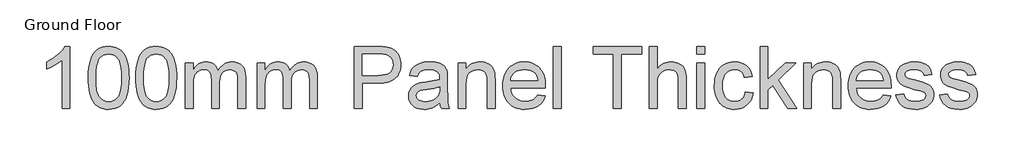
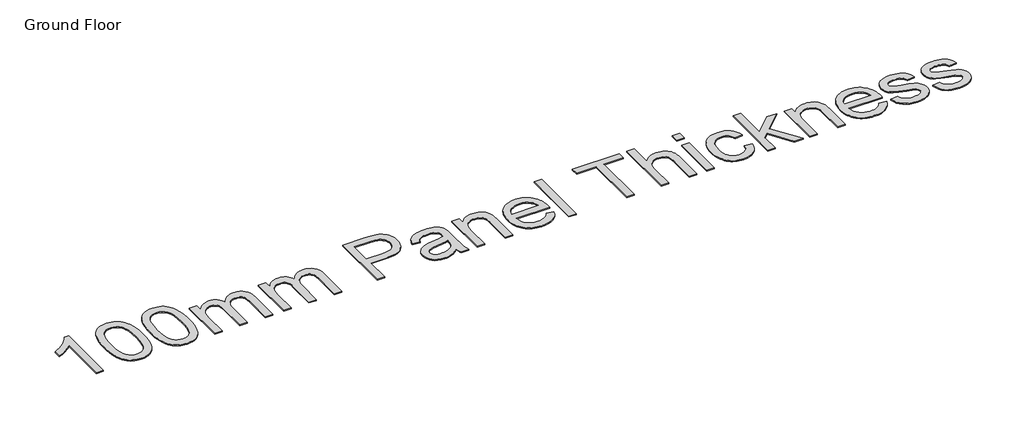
# One storey, part 8 of 12: 1 proxy.
"""IFC4 building model written with IfcOpenShell, lengths in millimetres."""

import ifcopenshell
import ifcopenshell.guid

model = None  # the IFC model being written
_history = None  # IfcOwnerHistory: only IFC2X3 demands one
_inside = {}  # id of a spatial element -> (the spatial element, [elements in it])
_under = {}  # id of a project, library or spatial element -> (it, [spatial elements below it])
_declared = {}  # id of a project -> (the project, [libraries it declares])
_typed = {}  # id of a type object -> (the type object, [elements of that type])
_made_of = {}  # id of a material, layer set ... -> (it, [elements and type objects made of it])


def new_model(schema):
    """Start an empty IFC model of exactly this schema.

    Asked for "IFC4X3", IfcOpenShell would pick the latest addendum, in which some entities
    have other attributes; the version numbers below select the first issue.
    IFC2X3 requires an IfcOwnerHistory on every rooted entity: one is made here for all.
    """
    global model, _history
    if schema == "IFC4X3":
        model = ifcopenshell.file(schema_version=(4, 3, 0, 0))
    else:
        model = ifcopenshell.file(schema=schema)
    _inside.clear()
    _under.clear()
    _declared.clear()
    _typed.clear()
    _made_of.clear()
    _history = None
    if model.schema == "IFC2X3":
        org = make("IfcOrganization", Name="unknown")
        user = make(
            "IfcPersonAndOrganization",
            ThePerson=make("IfcPerson", FamilyName="unknown"),
            TheOrganization=org,
        )
        app = make(
            "IfcApplication",
            ApplicationDeveloper=org,
            Version="unknown",
            ApplicationFullName="unknown",
            ApplicationIdentifier="unknown",
        )
        _history = make(
            "IfcOwnerHistory",
            OwningUser=user,
            OwningApplication=app,
            ChangeAction="ADDED",
            CreationDate=0,
        )
    return model


def make(cls, **values):
    """One entity of the class cls with the attributes given. An attribute that is None is left unset."""
    return model.create_entity(
        cls, **{name: value for name, value in values.items() if value is not None}
    )


def rooted(cls, **values):
    """An entity with a GlobalId (a new one), such as an element, a storey or a relation."""
    return make(cls, GlobalId=ifcopenshell.guid.new(), OwnerHistory=_history, **values)


def si_unit(unit_type, name, prefix=None):
    """IfcSIUnit, for example si_unit("LENGTHUNIT", "METRE", prefix="MILLI")."""
    return make("IfcSIUnit", UnitType=unit_type, Prefix=prefix, Name=name)


def assignment(units):
    """IfcUnitAssignment: the units of a project."""
    return None if units is None else make("IfcUnitAssignment", Units=units)


def point(xyz):
    """IfcCartesianPoint."""
    return None if xyz is None else make("IfcCartesianPoint", Coordinates=xyz)


def direction(xyz):
    """IfcDirection."""
    return None if xyz is None else make("IfcDirection", DirectionRatios=xyz)


def frame(location, z_axis=None, x_axis=None):
    """IfcAxis2Placement3D, a coordinate frame: its origin and axes. An axis left out is left unset."""
    return make(
        "IfcAxis2Placement3D",
        Location=point(location),
        Axis=direction(z_axis),
        RefDirection=direction(x_axis),
    )


def origin():
    """The frame at (0, 0, 0) with its axes left unset."""
    return frame((0.0, 0.0, 0.0))


def origin_with_axes():
    """The frame at (0, 0, 0) with the z axis (0, 0, 1) and the x axis (1, 0, 0) written out."""
    return frame((0.0, 0.0, 0.0), z_axis=(0.0, 0.0, 1.0), x_axis=(1.0, 0.0, 0.0))


def place(relative_to, where):
    """IfcLocalPlacement: puts the frame where relative to a parent placement (None: the world)."""
    return make(
        "IfcLocalPlacement", PlacementRelTo=relative_to, RelativePlacement=where
    )


def context(
    kind, dimensions, precision=None, world=None, true_north=None, identifier=None
):
    """IfcGeometricRepresentationContext, for example the 3D "Model" context."""
    return make(
        "IfcGeometricRepresentationContext",
        ContextIdentifier=identifier,
        ContextType=kind,
        CoordinateSpaceDimension=dimensions,
        Precision=precision,
        WorldCoordinateSystem=world,
        TrueNorth=true_north,
    )


def project(units=None, contexts=None):
    """IfcProject with its units and contexts."""
    return rooted(
        "IfcProject",
        Name="project",
        RepresentationContexts=contexts,
        UnitsInContext=assignment(units),
    )


def spatial(cls, under=None, at=None, **own):
    """A site, building, storey or space (cls), placed at a placement, below another one or the project."""
    s = rooted(cls, ObjectPlacement=at, **own)
    if under is not None:
        _under.setdefault(under.id(), (under, []))[1].append(s)
    return s


def polyline(points):
    """IfcPolyline through the points."""
    return make("IfcPolyline", Points=[point(p) for p in points])


def outline(outer, holes=None, kind="AREA"):
    """IfcArbitraryClosedProfileDef: a profile drawn as a closed curve; with holes, ...WithVoids."""
    if holes is None:
        return make("IfcArbitraryClosedProfileDef", ProfileType=kind, OuterCurve=outer)
    return make(
        "IfcArbitraryProfileDefWithVoids",
        ProfileType=kind,
        OuterCurve=outer,
        InnerCurves=holes,
    )


def extrude(swept, where, along, depth):
    """IfcExtrudedAreaSolid: the profile swept, set in the frame where, extruded along a direction by depth."""
    return make(
        "IfcExtrudedAreaSolid",
        SweptArea=swept,
        Position=where,
        ExtrudedDirection=direction(along),
        Depth=depth,
    )


def shape(context_of_items, identifier, shape_type, items):
    """IfcShapeRepresentation: the items that make up one representation, for example the "Body"."""
    return make(
        "IfcShapeRepresentation",
        ContextOfItems=context_of_items,
        RepresentationIdentifier=identifier,
        RepresentationType=shape_type,
        Items=items,
    )


def made_of(thing, what):
    """Note that an element or type object is made of a material, layer set ...; save() writes the relation."""
    if what is not None:
        _made_of.setdefault(what.id(), (what, []))[1].append(thing)
    return thing


def element(
    cls,
    number,
    at=None,
    inside=None,
    cuts=None,
    type_object=None,
    material=None,
    context=None,
    identifier="Body",
    shape_type=None,
    held_by="IfcProductDefinitionShape",
    body=None,
    shapes=None,
    **own,
):
    """One element of the class cls, such as IfcWall. Its Tag is "e" and its number.

    at: its placement. inside: the storey or other place that contains it. cuts: it is an
    opening in that element (IfcRelVoidsElement). A single representation is given by context,
    identifier, shape_type and body (its items); several are given by shapes. held_by: the class
    of the entity that holds the representations. save() writes the other relations.
    """
    e = rooted(cls, Tag="e%d" % number, ObjectPlacement=at, **own)
    if body is not None:
        shapes = [shape(context, identifier, shape_type, body)]
    if shapes is not None:
        e.Representation = make(held_by, Representations=shapes)
    if inside is not None:
        _inside.setdefault(inside.id(), (inside, []))[1].append(e)
    if cuts is not None:
        rooted(
            "IfcRelVoidsElement", RelatingBuildingElement=cuts, RelatedOpeningElement=e
        )
    if type_object is not None:
        _typed.setdefault(type_object.id(), (type_object, []))[1].append(e)
    return made_of(e, material)


def aggregate(whole, parts):
    """IfcRelAggregates: a whole, such as a stair, and the parts it consists of."""
    return rooted("IfcRelAggregates", RelatingObject=whole, RelatedObjects=parts)


def save(model, path):
    """Write the relations noted so far, then the file.

    IfcRelAggregates (storeys below a building ...), IfcRelContainedInSpatialStructure (elements
    in a storey), IfcRelDefinesByType, IfcRelAssociatesMaterial and IfcRelDeclares: one each for
    every whole, place, type object, material and project.
    """
    for whole, parts in _under.values():
        aggregate(whole, parts)
    for where, things in _inside.values():
        rooted(
            "IfcRelContainedInSpatialStructure",
            RelatedElements=things,
            RelatingStructure=where,
        )
    for kind, things in _typed.values():
        rooted("IfcRelDefinesByType", RelatedObjects=things, RelatingType=kind)
    for what, things in _made_of.values():
        rooted("IfcRelAssociatesMaterial", RelatedObjects=things, RelatingMaterial=what)
    for by, libraries in _declared.values():
        rooted("IfcRelDeclares", RelatingContext=by, RelatedDefinitions=libraries)
    model.write(path)


model = new_model("IFC4")

# Units and contexts
model_context = context("Model", 3, world=origin())
ifc_project = project(units=[si_unit("LENGTHUNIT", "METRE", prefix="MILLI")], contexts=[model_context])

# Site, building, storey
site = spatial("IfcSite", under=ifc_project)
building = spatial("IfcBuilding", under=site)
storey = spatial("IfcBuildingStorey", under=building, Name="Ground Floor", Elevation=0.0)

# Proxy
placement = place(None, origin())
element("IfcBuildingElementProxy", 1, Name="1200mm Arial", ObjectType="1200mm Arial", at=placement, inside=storey, context=model_context, shape_type="SweptSolid", body=[
    extrude(outline(polyline([(56694.7722355, 23010.3942503), (56547.8631446, 23010.3942503), (56547.8631446, 23926.2806139), (56486.5314685, 23876.6772758), (56408.7012128, 23827.1456707), (56326.9973776, 23783.8548327), (56254.0449628, 23752.9737957), (56254.0449628, 23891.8487957), (56313.6640146, 23921.7435045), (56369.4274202, 23954.6151309), (56421.3351794, 23990.463675), (56469.3872923, 24029.2891366), (56512.1490999, 24069.298192), (56548.1859429, 24108.6975173), (56577.4978215, 24147.4871125), (56600.0847355, 24185.6669775), (56694.7722355, 24185.6669775), (56694.7722355, 23010.3942503)])), origin_with_axes(), (0.0, 0.0, 1.0), 20.0),
    extrude(outline(polyline([(57043.6813264, 23588.5618639), (57046.3802788, 23687.3829754), (57054.4771361, 23776.6815372), (57067.9718982, 23856.4575493), (57086.8645651, 23926.7110116), (57111.0744372, 23988.0157879), (57140.5208151, 24040.9457417), (57175.2036986, 24085.5008731), (57215.1230878, 24121.6811821), (57260.413482, 24149.6749676), (57311.2093804, 24169.6705287), (57367.5107831, 24181.6678653), (57429.3176901, 24185.6669775), (57475.7647781, 24183.29979), (57519.8446787, 24176.1982275), (57561.5573918, 24164.36229), (57600.9029173, 24147.7919775), (57636.9307938, 24126.7652552), (57668.6905594, 24101.5600883), (57696.1822142, 24072.1764768), (57719.4057582, 24038.6144207), (57739.526852, 24001.0084193), (57757.711156, 23959.4929719), (57788.2693946, 23864.7337389), (57799.943933, 23809.0061998), (57808.2828889, 23744.4017077), (57813.2862625, 23670.9202623), (57814.9540537, 23588.5618639), (57812.2820011, 23490.3684157), (57804.2658435, 23401.5181849), (57790.9055807, 23322.0111714), (57772.2012128, 23251.8473753), (57748.1796396, 23190.5156991), (57718.8677611, 23137.5050457), (57684.2655771, 23092.815415), (57644.3730878, 23056.4468071), (57599.0288939, 23028.2647226), (57548.0715963, 23008.1346622), (57491.501195, 22996.056626), (57429.3176901, 22992.0306139), (57387.7125764, 22993.7791047), (57348.4029173, 22999.024577), (57311.3887128, 23007.7670308), (57276.6699628, 23020.0064662), (57244.2466673, 23035.7428831), (57214.1188264, 23054.9762815), (57186.2864401, 23077.7066615), (57160.7495082, 23103.934023), (57133.3116531, 23145.4629204), (57109.5321787, 23192.4345557), (57089.411085, 23244.8489289), (57072.9483719, 23302.70604), (57060.1440395, 23366.0058891), (57050.9980878, 23434.7484761), (57045.5105168, 23508.933801), (57043.6813264, 23588.5618639)]), holes=[polyline([(57190.5904173, 23588.8487957), (57194.8943946, 23461.1372368), (57207.8063264, 23357.7610827), (57217.4902753, 23315.1987824), (57229.3262128, 23278.7203334), (57243.3141389, 23248.3257355), (57259.4540537, 23224.0149889), (57295.8943946, 23186.7945521), (57336.351781, 23160.2085258), (57380.8262128, 23144.2569101), (57429.3176901, 23138.9397048), (57477.8091673, 23144.2748433), (57522.2835992, 23160.2802588), (57562.7409855, 23186.9559513), (57599.1813264, 23224.3019207), (57615.3212412, 23248.6709504), (57629.3091673, 23279.0969314), (57641.1451048, 23315.5798637), (57650.8290537, 23358.1197474), (57663.7409855, 23461.3703689), (57668.0449628, 23588.8487957), (57663.8844514, 23713.1799392), (57651.4029173, 23814.7358696), (57642.0417668, 23856.9731299), (57630.6003605, 23893.5165869), (57617.0786986, 23924.3662407), (57601.476781, 23949.5220912), (57565.6461702, 23988.5627517), (57524.7225196, 24016.4489378), (57478.7058293, 24033.1806494), (57427.5960992, 24038.7578866), (57379.3556872, 24033.8441792), (57335.6344514, 24019.1030571), (57296.4323918, 23994.5345202), (57261.7495082, 23960.1385684), (57245.0715963, 23932.3061821), (57230.617406, 23899.1655571), (57218.3869372, 23860.7166934), (57208.3801901, 23816.9595912), (57195.0378605, 23713.5206707), (57190.5904173, 23588.8487957)])]), origin_with_axes(), (0.0, 0.0, 1.0), 20.0),
    extrude(outline(polyline([(57943.4995082, 23588.5618639), (57946.1984607, 23687.3829754), (57954.2953179, 23776.6815372), (57967.79008, 23856.4575493), (57986.6827469, 23926.7110116), (58010.892619, 23988.0157879), (58040.3389969, 24040.9457417), (58075.0218804, 24085.5008731), (58114.9412696, 24121.6811821), (58160.2316638, 24149.6749676), (58211.0275622, 24169.6705287), (58267.3289649, 24181.6678653), (58329.1358719, 24185.6669775), (58375.58296, 24183.29979), (58419.6628605, 24176.1982275), (58461.3755736, 24164.36229), (58500.7210992, 24147.7919775), (58536.7489756, 24126.7652552), (58568.5087412, 24101.5600883), (58596.000396, 24072.1764768), (58619.2239401, 24038.6144207), (58639.3450338, 24001.0084193), (58657.5293378, 23959.4929719), (58688.0875764, 23864.7337389), (58699.7621148, 23809.0061998), (58708.1010707, 23744.4017077), (58713.1044443, 23670.9202623), (58714.7722355, 23588.5618639), (58712.100183, 23490.3684157), (58704.0840253, 23401.5181849), (58690.7237625, 23322.0111714), (58672.0193946, 23251.8473753), (58647.9978215, 23190.5156991), (58618.6859429, 23137.5050457), (58584.083759, 23092.815415), (58544.1912696, 23056.4468071), (58498.8470757, 23028.2647226), (58447.8897781, 23008.1346622), (58391.3193769, 22996.056626), (58329.1358719, 22992.0306139), (58287.5307582, 22993.7791047), (58248.2210992, 22999.024577), (58211.2068946, 23007.7670308), (58176.4881446, 23020.0064662), (58144.0648492, 23035.7428831), (58113.9370082, 23054.9762815), (58086.1046219, 23077.7066615), (58060.5676901, 23103.934023), (58033.129835, 23145.4629204), (58009.3503605, 23192.4345557), (57989.2292668, 23244.8489289), (57972.7665537, 23302.70604), (57959.9622213, 23366.0058891), (57950.8162696, 23434.7484761), (57945.3286986, 23508.933801), (57943.4995082, 23588.5618639)]), holes=[polyline([(58090.4085992, 23588.8487957), (58094.7125764, 23461.1372368), (58107.6245082, 23357.7610827), (58117.3084571, 23315.1987824), (58129.1443946, 23278.7203334), (58143.1323207, 23248.3257355), (58159.2722355, 23224.0149889), (58195.7125764, 23186.7945521), (58236.1699628, 23160.2085258), (58280.6443946, 23144.2569101), (58329.1358719, 23138.9397048), (58377.6273492, 23144.2748433), (58422.101781, 23160.2802588), (58462.5591673, 23186.9559513), (58498.9995082, 23224.3019207), (58515.139423, 23248.6709504), (58529.1273492, 23279.0969314), (58540.9632867, 23315.5798637), (58550.6472355, 23358.1197474), (58563.5591673, 23461.3703689), (58567.8631446, 23588.8487957), (58563.7026332, 23713.1799392), (58551.2210992, 23814.7358696), (58541.8599486, 23856.9731299), (58530.4185423, 23893.5165869), (58516.8968804, 23924.3662407), (58501.2949628, 23949.5220912), (58465.464352, 23988.5627517), (58424.5407014, 24016.4489378), (58378.5240111, 24033.1806494), (58327.414281, 24038.7578866), (58279.173869, 24033.8441792), (58235.4526332, 24019.1030571), (58196.2505736, 23994.5345202), (58161.5676901, 23960.1385684), (58144.8897781, 23932.3061821), (58130.4355878, 23899.1655571), (58118.205119, 23860.7166934), (58108.1983719, 23816.9595912), (58094.8560423, 23713.5206707), (58090.4085992, 23588.8487957)])]), origin_with_axes(), (0.0, 0.0, 1.0), 20.0),
    extrude(outline(polyline([(58880.0449628, 23010.3942503), (58880.0449628, 23873.4851594), (59026.9540537, 23873.4851594), (59026.9540537, 23731.4539094), (59047.4696787, 23765.8408944), (59071.1415537, 23796.6950315), (59097.9696787, 23824.0163206), (59127.9540537, 23847.8047616), (59160.6104813, 23867.0740265), (59195.4547639, 23880.8377872), (59232.4869017, 23889.0960436), (59271.7068946, 23891.8487957), (59314.5852682, 23889.0422439), (59353.4107298, 23880.6225883), (59388.1832796, 23866.5898291), (59418.9029173, 23846.9439662), (59445.479977, 23822.24093), (59467.8247923, 23793.0366508), (59485.9373634, 23759.3311288), (59499.8176901, 23721.1243639), (59525.6505203, 23761.1379026), (59553.3663406, 23795.8163028), (59582.965151, 23825.1595645), (59614.4469514, 23849.1676878), (59647.8117419, 23867.8406725), (59683.0595225, 23881.1785187), (59720.190293, 23889.1812265), (59759.2040537, 23891.8487957), (59818.0161098, 23887.4103192), (59869.6369372, 23874.0948895), (59914.0665359, 23851.9025067), (59951.304906, 23820.8331707), (59980.7423172, 23780.5282169), (60001.7690395, 23730.6289804), (60014.3850729, 23671.1354612), (60018.5904173, 23602.0476594), (60018.5904173, 23010.3942503), (59871.6813264, 23010.3942503), (59871.6813264, 23538.9226594), (59868.2740111, 23612.1978724), (59858.0520651, 23661.5860116), (59849.856575, 23679.4026842), (59838.8993662, 23695.4080997), (59825.1804386, 23709.6022581), (59808.6997923, 23721.9851594), (59790.0581908, 23732.027773), (59769.8563975, 23739.2010684), (59724.7722355, 23744.9397048), (59683.140222, 23741.2633909), (59645.1845225, 23730.2344491), (59610.9051368, 23711.8528795), (59580.3020651, 23686.1186821), (59555.1327646, 23652.2786608), (59537.1546929, 23609.5796196), (59526.3678499, 23558.0215585), (59522.7722355, 23497.6044775), (59522.7722355, 23010.3942503), (59375.8631446, 23010.3942503), (59375.8631446, 23555.277773), (59373.7380558, 23599.7880713), (59367.3627895, 23638.3445344), (59356.7373456, 23670.9471622), (59341.8617242, 23697.5959548), (59322.1441283, 23718.3088454), (59296.9927611, 23733.1037673), (59266.4076226, 23741.9807204), (59230.3887128, 23744.9397048), (59201.5341318, 23742.9670486), (59173.7914117, 23737.0490798), (59147.1605523, 23727.1857986), (59121.6415537, 23713.3772048), (59098.4000764, 23695.7667645), (59078.601781, 23674.4979434), (59062.2466673, 23649.5707417), (59049.3347355, 23620.9851594), (59039.5431872, 23587.216871), (59032.5492242, 23546.7415514), (59026.9540537, 23445.6698184), (59026.9540537, 23010.3942503), (58880.0449628, 23010.3942503)])), origin_with_axes(), (0.0, 0.0, 1.0), 20.0),
    extrude(outline(polyline([(60238.9540537, 23010.3942503), (60238.9540537, 23873.4851594), (60385.8631446, 23873.4851594), (60385.8631446, 23731.4539094), (60406.3787696, 23765.8408944), (60430.0506446, 23796.6950315), (60456.8787696, 23824.0163206), (60486.8631446, 23847.8047616), (60519.5195722, 23867.0740265), (60554.3638548, 23880.8377872), (60591.3959926, 23889.0960436), (60630.6159855, 23891.8487957), (60673.4943591, 23889.0422439), (60712.3198207, 23880.6225883), (60747.0923705, 23866.5898291), (60777.8120082, 23846.9439662), (60804.3890679, 23822.24093), (60826.7338832, 23793.0366508), (60844.8464543, 23759.3311288), (60858.726781, 23721.1243639), (60884.5596112, 23761.1379026), (60912.2754315, 23795.8163028), (60941.8742419, 23825.1595645), (60973.3560423, 23849.1676878), (61006.7208328, 23867.8406725), (61041.9686134, 23881.1785187), (61079.099384, 23889.1812265), (61118.1131446, 23891.8487957), (61176.9252007, 23887.4103192), (61228.5460281, 23874.0948895), (61272.9756269, 23851.9025067), (61310.2139969, 23820.8331707), (61339.6514081, 23780.5282169), (61360.6781304, 23730.6289804), (61373.2941638, 23671.1354612), (61377.4995082, 23602.0476594), (61377.4995082, 23010.3942503), (61230.5904173, 23010.3942503), (61230.5904173, 23538.9226594), (61227.183102, 23612.1978724), (61216.961156, 23661.5860116), (61208.7656659, 23679.4026842), (61197.8084571, 23695.4080997), (61184.0895296, 23709.6022581), (61167.6088832, 23721.9851594), (61148.9672817, 23732.027773), (61128.7654884, 23739.2010684), (61083.6813264, 23744.9397048), (61042.0493129, 23741.2633909), (61004.0936134, 23730.2344491), (60969.8142277, 23711.8528795), (60939.211156, 23686.1186821), (60914.0418555, 23652.2786608), (60896.0637838, 23609.5796196), (60885.2769408, 23558.0215585), (60881.6813264, 23497.6044775), (60881.6813264, 23010.3942503), (60734.7722355, 23010.3942503), (60734.7722355, 23555.277773), (60732.6471467, 23599.7880713), (60726.2718804, 23638.3445344), (60715.6464365, 23670.9471622), (60700.7708151, 23697.5959548), (60681.0532192, 23718.3088454), (60655.901852, 23733.1037673), (60625.3167135, 23741.9807204), (60589.2978037, 23744.9397048), (60560.4432227, 23742.9670486), (60532.7005026, 23737.0490798), (60506.0696432, 23727.1857986), (60480.5506446, 23713.3772048), (60457.3091673, 23695.7667645), (60437.5108719, 23674.4979434), (60421.1557582, 23649.5707417), (60408.2438264, 23620.9851594), (60398.4522781, 23587.216871), (60391.4583151, 23546.7415514), (60385.8631446, 23445.6698184), (60385.8631446, 23010.3942503), (60238.9540537, 23010.3942503)])), origin_with_axes(), (0.0, 0.0, 1.0), 20.0),
    extrude(outline(polyline([(62075.3176901, 23010.3942503), (62075.3176901, 24185.6669775), (62510.8801901, 24185.6669775), (62612.3105878, 24182.8693923), (62686.4824628, 24174.4766366), (62727.3612803, 24165.6624498), (62764.7789827, 24153.5664804), (62798.73557, 24138.1887282), (62829.2310423, 24119.5291934), (62856.5881979, 24097.2023113), (62881.129835, 24070.8225173), (62902.8559536, 24040.3898113), (62921.7665537, 24005.9041934), (62937.0815395, 23968.5044243), (62948.0208151, 23929.3292645), (62954.5843804, 23888.378714), (62956.7722355, 23845.652773), (62950.8632334, 23773.507354), (62943.4769807, 23739.600083), (62933.136227, 23707.1364378), (62919.8409722, 23676.1164182), (62903.5912163, 23646.5400244), (62884.3869594, 23618.4072563), (62862.2282014, 23591.7181139), (62836.2137971, 23567.3737425), (62805.4426013, 23546.2752872), (62769.9146139, 23528.4227481), (62729.629835, 23513.8161253), (62684.5882645, 23502.4554186), (62634.7899024, 23494.3406281), (62580.2347488, 23489.4717538), (62520.9228037, 23487.8487957), (62222.226781, 23487.8487957), (62222.226781, 23010.3942503), (62075.3176901, 23010.3942503)]), holes=[polyline([(62222.226781, 23634.7578866), (62529.5307582, 23634.7578866), (62600.1877185, 23638.1293355), (62659.7978037, 23648.2436821), (62708.3610139, 23665.1009264), (62745.8773492, 23688.7010684), (62773.8711347, 23718.4164449), (62793.8666957, 23753.6193923), (62805.8640324, 23794.3099108), (62809.8631446, 23840.4880003), (62807.5049237, 23874.7763525), (62800.4302611, 23906.4823184), (62788.6391567, 23935.605898), (62772.1316105, 23962.1470912), (62751.7863513, 23985.2451025), (62728.4821077, 24004.0391366), (62702.2188797, 24018.5291934), (62672.9966673, 24028.715273), (62616.3276332, 24036.2472332), (62526.0875764, 24038.7578866), (62222.226781, 24038.7578866), (62222.226781, 23634.7578866)])]), origin_with_axes(), (0.0, 0.0, 1.0), 20.0),
    extrude(outline(polyline([(63691.3176901, 23120.5760684), (63656.482374, 23087.8837744), (63621.126994, 23060.3921196), (63585.2515502, 23038.101104), (63548.8560423, 23021.0107275), (63511.5280061, 23008.3319278), (63472.854977, 22999.2756423), (63432.836955, 22993.841871), (63391.4739401, 22992.0306139), (63326.0624521, 22996.3883909), (63268.7029884, 23009.4617219), (63219.3955487, 23031.2506068), (63178.1401332, 23061.7550457), (63145.5644053, 23099.0382488), (63122.2960281, 23141.1634264), (63108.3350019, 23188.1305784), (63103.6813264, 23239.9397048), (63105.4387838, 23271.0897403), (63110.711156, 23300.8409832), (63119.4984429, 23329.1934335), (63131.8006446, 23356.1470912), (63146.9631979, 23381.1101594), (63164.3315395, 23403.4908412), (63183.9056695, 23423.2891366), (63205.6855878, 23440.5050457), (63254.2846645, 23468.480898), (63308.5506446, 23488.7095912), (63361.4178321, 23499.971665), (63435.6614401, 23510.8033412), (63585.8702469, 23534.0448184), (63643.8663406, 23547.1719491), (63690.4568946, 23561.3033412), (63691.3176901, 23594.0135684), (63688.7891034, 23629.6289804), (63681.2033435, 23659.5774889), (63668.5604102, 23683.859094), (63650.8603037, 23702.4737957), (63620.2661986, 23721.0526309), (63583.0009287, 23734.3232275), (63539.064494, 23742.2855855), (63488.4568946, 23744.9397048), (63441.4000764, 23743.1732808), (63400.9426901, 23737.8740088), (63367.0847355, 23729.0418888), (63339.8262128, 23716.6769207), (63317.4275977, 23699.8107098), (63298.1493662, 23677.4748611), (63281.9915182, 23649.6693746), (63268.9540537, 23616.3942503), (63122.0449628, 23634.7578866), (63133.2263371, 23677.0803298), (63147.5460281, 23715.0987957), (63165.0040359, 23748.8132844), (63185.6003605, 23778.2237957), (63210.2226972, 23803.9221267), (63239.7587412, 23826.5000741), (63274.2084926, 23845.957638), (63313.5719514, 23862.2948184), (63357.0510885, 23875.2246835), (63403.8478747, 23884.4603014), (63453.9623101, 23890.0016721), (63507.3943946, 23891.8487957), (63559.6249521, 23890.216871), (63606.7086702, 23885.3210969), (63648.6455487, 23877.1614733), (63685.4355878, 23865.7380003), (63717.3836524, 23851.8487069), (63744.7946077, 23836.2916224), (63767.6684536, 23819.0667467), (63786.0051901, 23800.1740798), (63800.8718449, 23779.1473575), (63813.3354457, 23755.5203156), (63831.0534855, 23700.465273), (63836.4334571, 23649.6783412), (63838.226781, 23571.9198184), (63838.226781, 23389.1442503), (63840.0918378, 23229.9329577), (63845.6870082, 23133.918398), (63856.7338832, 23070.8292645), (63874.9540537, 23010.3942503), (63728.0449628, 23010.3942503), (63714.9895651, 23034.9269207), (63704.5165537, 23061.4681139), (63691.3176901, 23120.5760684)]), holes=[polyline([(63691.3176901, 23414.3942503), (63646.9149912, 23401.6795841), (63592.6131446, 23389.9333128), (63454.3120082, 23369.3459548), (63378.095744, 23358.0838809), (63327.9185423, 23345.5306139), (63295.0289827, 23329.2472332), (63270.6756446, 23306.7948184), (63255.6117242, 23279.8949605), (63250.5904173, 23250.2692503), (63253.3252362, 23227.4402375), (63261.5296929, 23206.5838809), (63275.2037874, 23187.7001807), (63294.3475196, 23170.7891366), (63318.7815573, 23156.8550102), (63348.3265679, 23146.9020628), (63382.9825516, 23140.9302943), (63422.7495082, 23138.9397048), (63463.3503605, 23141.1365265), (63501.6557582, 23147.7269917), (63537.6657014, 23158.7111004), (63571.3801901, 23174.0888525), (63601.7949628, 23192.5869882), (63627.9057582, 23212.9322474), (63649.7125764, 23235.1246302), (63667.2154173, 23259.1641366), (63677.3835636, 23280.684023), (63684.6465253, 23306.7948184), (63689.0043023, 23337.496523), (63690.4568946, 23372.7891366), (63691.3176901, 23414.3942503)])]), origin_with_axes(), (0.0, 0.0, 1.0), 20.0),
    extrude(outline(polyline([(64040.226781, 23010.3942503), (64040.226781, 23873.4851594), (64187.1358719, 23873.4851594), (64187.1358719, 23752.9737957), (64211.3726439, 23785.5226238), (64238.173869, 23813.7316082), (64267.5395473, 23837.6007488), (64299.4696787, 23857.1300457), (64333.9642632, 23872.3194988), (64371.0233009, 23883.1691082), (64410.6467916, 23889.6788738), (64452.8347355, 23891.8487957), (64489.804107, 23890.100305), (64525.2491531, 23884.8548327), (64559.169874, 23876.1123788), (64591.5662696, 23863.8729434), (64621.2099131, 23848.7910898), (64646.8723776, 23831.5213809), (64668.5536631, 23812.063817), (64686.2537696, 23790.418398), (64712.9742952, 23740.671594), (64730.2978037, 23682.3885684), (64736.108173, 23626.6520628), (64738.0449628, 23540.3573184), (64738.0449628, 23010.3942503), (64591.1358719, 23010.3942503), (64591.1358719, 23520.559023), (64586.9036276, 23596.5242219), (64581.6133222, 23626.2754648), (64574.2068946, 23650.5391366), (64564.1194479, 23670.9740621), (64550.786085, 23689.2390656), (64534.2068058, 23705.3341473), (64514.3816105, 23719.2593071), (64491.9919621, 23730.4944811), (64467.7193236, 23738.5196054), (64441.563695, 23743.33468), (64413.5250764, 23744.9397048), (64368.9161453, 23741.3351238), (64327.4813975, 23730.5213809), (64289.2208328, 23712.4984761), (64254.1344514, 23687.2664094), (64238.4316593, 23671.2296107), (64224.8225729, 23651.9558625), (64213.307192, 23629.4451647), (64203.8855168, 23603.6975173), (64191.3232831, 23542.4913738), (64187.1358719, 23468.3374321), (64187.1358719, 23010.3942503), (64040.226781, 23010.3942503)])), origin_with_axes(), (0.0, 0.0, 1.0), 20.0),
    extrude(outline(polyline([(65544.3233719, 23267.4851594), (65688.3631446, 23249.121523), (65666.2783612, 23191.4302943), (65636.464352, 23140.5895628), (65598.9211169, 23096.5993284), (65553.648656, 23059.4595912), (65501.1132334, 23029.9594136), (65441.7811134, 23008.8878582), (65375.6522959, 22996.244925), (65302.726781, 22992.0306139), (65255.9075782, 22993.848596), (65211.572129, 22999.3025422), (65169.7204333, 23008.3924525), (65130.3524912, 23021.118327), (65093.4683026, 23037.4801656), (65059.0678676, 23057.4779683), (65027.1511862, 23081.1117352), (64997.7182582, 23108.3814662), (64971.2891478, 23138.9329798), (64948.3839188, 23172.4120947), (64929.0025711, 23208.8188108), (64913.1451048, 23248.1531281), (64900.81152, 23290.4150466), (64892.0018165, 23335.6045663), (64886.7159944, 23383.7216872), (64884.9540537, 23434.7664094), (64886.7339276, 23487.548414), (64892.0735494, 23537.2907346), (64900.9729191, 23583.9933714), (64913.4320367, 23627.6563241), (64929.4509021, 23668.2795929), (64949.0295154, 23705.8631778), (64972.1678765, 23740.4070787), (64998.8659855, 23771.9112957), (65028.4020296, 23800.0216473), (65060.0541957, 23824.383952), (65093.8224841, 23844.9982098), (65129.7068946, 23861.8644207), (65167.7074273, 23874.9825848), (65207.8240821, 23884.352702), (65250.0568591, 23889.9747723), (65294.4057582, 23891.8487957), (65337.3043067, 23889.9792556), (65378.1988158, 23884.3706352), (65417.0892854, 23875.0229346), (65453.9757156, 23861.9361537), (65488.8581064, 23845.1102925), (65521.7364578, 23824.5453511), (65552.6107698, 23800.2413295), (65581.4810423, 23772.1982275), (65607.6075294, 23740.7657435), (65630.2504848, 23706.2935755), (65649.4099086, 23668.7817236), (65665.0858009, 23628.2301878), (65677.2781615, 23584.6389679), (65685.9869905, 23538.0080642), (65691.2122879, 23488.3374765), (65692.9540537, 23435.6272048), (65692.0932582, 23396.0306139), (65031.8631446, 23396.0306139), (65040.3724663, 23337.4068568), (65057.292477, 23286.0639946), (65082.6231766, 23242.0020273), (65116.3645651, 23205.2209548), (65156.6515857, 23176.2229079), (65201.6191815, 23155.5100173), (65251.2673527, 23143.0822829), (65305.5960992, 23138.9397048), (65346.2328179, 23140.8585613), (65383.7850196, 23146.6151309), (65418.2527043, 23156.2094136), (65449.6358719, 23169.6414094), (65477.9345225, 23187.2697829), (65503.148656, 23209.4531991), (65525.2782725, 23236.1916579), (65544.3233719, 23267.4851594)]), holes=[polyline([(65031.8631446, 23542.9397048), (65546.0449628, 23542.9397048), (65538.4950693, 23584.508952), (65526.1749344, 23620.5547616), (65509.084558, 23651.0771338), (65487.2239401, 23676.0760684), (65447.161085, 23706.2039094), (65401.5747923, 23727.7237957), (65350.4650622, 23740.6357275), (65293.8318946, 23744.9397048), (65242.1752007, 23741.5054896), (65194.8045509, 23731.202844), (65151.719945, 23714.031768), (65112.9213832, 23689.9922616), (65080.3635885, 23660.1961856), (65056.0012838, 23625.7554008), (65039.8344692, 23586.6699072), (65031.8631446, 23542.9397048)])]), origin_with_axes(), (0.0, 0.0, 1.0), 20.0),
    extrude(outline(polyline([(65839.8631446, 23010.3942503), (65839.8631446, 24185.6669775), (65986.7722355, 24185.6669775), (65986.7722355, 23010.3942503), (65839.8631446, 23010.3942503)])), origin_with_axes(), (0.0, 0.0, 1.0), 20.0),
    extrude(outline(polyline([(66978.4085992, 23010.3942503), (66978.4085992, 24038.7578866), (66592.7722355, 24038.7578866), (66592.7722355, 24185.6669775), (67510.9540537, 24185.6669775), (67510.9540537, 24038.7578866), (67125.3176901, 24038.7578866), (67125.3176901, 23010.3942503), (66978.4085992, 23010.3942503)])), origin_with_axes(), (0.0, 0.0, 1.0), 20.0),
    extrude(outline(polyline([(67657.8631446, 23010.3942503), (67657.8631446, 24185.6669775), (67804.7722355, 24185.6669775), (67804.7722355, 23753.5476594), (67830.9233808, 23785.9619882), (67858.7333506, 23814.0544065), (67888.202145, 23837.8249143), (67919.3297639, 23857.2735116), (67952.1162075, 23872.4001984), (67986.5614756, 23883.2049747), (68022.6655683, 23889.6878405), (68060.4284855, 23891.8487957), (68106.3555097, 23889.4905748), (68149.1621503, 23882.4159122), (68188.8484074, 23870.6248078), (68225.414281, 23854.1172616), (68257.9272426, 23833.4492041), (68285.4547639, 23809.1765656), (68307.9968449, 23781.2993461), (68325.5534855, 23749.8175457), (68338.7344159, 23712.7854079), (68348.1493662, 23668.2571764), (68353.7983364, 23616.2328511), (68355.6813264, 23556.7124321), (68355.6813264, 23010.3942503), (68208.7722355, 23010.3942503), (68208.7722355, 23541.5050457), (68205.8491176, 23591.1083838), (68197.0797639, 23633.4666934), (68182.4641744, 23668.5799747), (68162.0023492, 23696.4482275), (68136.1784855, 23717.6632488), (68105.476781, 23732.8168355), (68069.8972355, 23741.9089875), (68029.4398492, 23744.9397048), (67997.9221823, 23742.8953156), (67967.354977, 23736.762148), (67937.7382334, 23726.540202), (67909.0719514, 23712.2294775), (67882.9073563, 23694.4217716), (67860.795673, 23673.7088809), (67842.7369017, 23650.0908057), (67828.7310423, 23623.5675457), (67818.2490644, 23592.9196409), (67810.7619372, 23556.9276309), (67806.2696609, 23515.5915159), (67804.7722355, 23468.9112957), (67804.7722355, 23010.3942503), (67657.8631446, 23010.3942503)])), origin_with_axes(), (0.0, 0.0, 1.0), 20.0),
    extrude(outline(polyline([(68557.6813264, 24038.7578866), (68557.6813264, 24185.6669775), (68704.5904173, 24185.6669775), (68704.5904173, 24038.7578866), (68557.6813264, 24038.7578866)])), origin_with_axes(), (0.0, 0.0, 1.0), 20.0),
    extrude(outline(polyline([(68557.6813264, 23010.3942503), (68557.6813264, 23873.4851594), (68704.5904173, 23873.4851594), (68704.5904173, 23010.3942503), (68557.6813264, 23010.3942503)])), origin_with_axes(), (0.0, 0.0, 1.0), 20.0),
    extrude(outline(polyline([(69475.8631446, 23322.5760684), (69622.7722355, 23304.2124321), (69606.7937199, 23234.8914981), (69581.8127185, 23173.5508554), (69547.8292313, 23120.1905038), (69504.8432582, 23074.8104434), (69454.6660565, 23038.594268), (69399.1088832, 23012.7255713), (69338.1717384, 22997.2043532), (69271.8546219, 22992.0306139), (69229.5927034, 22993.835146), (69189.460357, 22999.2487425), (69151.4575826, 23008.2714031), (69115.5843804, 23020.9031281), (69081.8407503, 23037.1439173), (69050.2266922, 23056.9937709), (69020.7422062, 23080.4526887), (68993.3872923, 23107.5206707), (68968.7402975, 23137.9601016), (68947.3795686, 23171.533366), (68929.3051057, 23208.2404639), (68914.5169088, 23248.0813952), (68903.0149779, 23291.0561599), (68894.7993129, 23337.1647581), (68889.869914, 23386.4071897), (68888.226781, 23438.7834548), (68891.0333328, 23506.3289981), (68899.4529884, 23569.5167645), (68913.4857476, 23628.3467538), (68933.1316105, 23682.8189662), (68958.5250764, 23731.839474), (68989.8006446, 23774.3143497), (69026.9583151, 23810.2435933), (69069.9980878, 23839.6272048), (69116.9742064, 23862.4741508), (69165.9409145, 23878.793398), (69216.8982121, 23888.5849463), (69269.8460992, 23891.8487957), (69335.024455, 23887.3654861), (69393.979977, 23873.9155571), (69446.7126652, 23851.4990088), (69493.2225196, 23820.1158412), (69532.7204777, 23780.4833838), (69564.417477, 23733.3189662), (69588.3135175, 23678.6225883), (69604.4085992, 23616.3942503), (69457.4995082, 23598.0306139), (69446.0312021, 23632.345866), (69430.8507156, 23662.1240088), (69411.9580487, 23687.3650422), (69389.3532014, 23708.0689662), (69363.6100374, 23724.1999143), (69335.3024202, 23735.7220202), (69304.4303499, 23742.6352836), (69270.9938264, 23744.9397048), (69221.0766567, 23740.4025954), (69176.0552611, 23726.7912673), (69135.9296396, 23704.1057204), (69100.6997923, 23672.3459548), (69085.3332485, 23652.8794243), (69072.0155771, 23630.7767077), (69051.526852, 23578.6627162), (69039.2336169, 23516.0039804), (69035.1358719, 23442.8005003), (69039.1439507, 23368.494126), (69051.1681872, 23305.109094), (69071.2085814, 23252.6454044), (69084.2348376, 23230.5090629), (69099.2651332, 23211.1030571), (69133.7955842, 23179.5315905), (69173.2576759, 23156.9805429), (69217.6514081, 23143.4499143), (69266.976781, 23138.9397048), (69306.7258044, 23141.7552233), (69343.0495793, 23150.2017787), (69375.9481055, 23164.279371), (69405.4213832, 23183.9880003), (69430.6444834, 23209.5428653), (69450.792477, 23241.159165), (69465.8653641, 23278.8368994), (69475.8631446, 23322.5760684)])), origin_with_axes(), (0.0, 0.0, 1.0), 20.0),
    extrude(outline(polyline([(69751.3176901, 23010.3942503), (69751.3176901, 24185.6669775), (69898.226781, 24185.6669775), (69898.226781, 23554.1300457), (70227.6245082, 23873.4851594), (70430.7722355, 23873.4851594), (70097.3574628, 23550.1130003), (70449.1358719, 23010.3942503), (70277.5506446, 23010.3942503), (69992.0534855, 23447.965273), (69898.226781, 23357.0078866), (69898.226781, 23010.3942503), (69751.3176901, 23010.3942503)])), origin_with_axes(), (0.0, 0.0, 1.0), 20.0),
    extrude(outline(polyline([(70577.6813264, 23010.3942503), (70577.6813264, 23873.4851594), (70724.5904173, 23873.4851594), (70724.5904173, 23752.9737957), (70748.8271894, 23785.5226238), (70775.6284145, 23813.7316082), (70804.9940928, 23837.6007488), (70836.9242242, 23857.1300457), (70871.4188087, 23872.3194988), (70908.4778463, 23883.1691082), (70948.1013371, 23889.6788738), (70990.289281, 23891.8487957), (71027.2586524, 23890.100305), (71062.7036986, 23884.8548327), (71096.6244195, 23876.1123788), (71129.0208151, 23863.8729434), (71158.6644585, 23848.7910898), (71184.326923, 23831.5213809), (71206.0082085, 23812.063817), (71223.7083151, 23790.418398), (71250.4288406, 23740.671594), (71267.7523492, 23682.3885684), (71273.5627185, 23626.6520628), (71275.4995082, 23540.3573184), (71275.4995082, 23010.3942503), (71128.5904173, 23010.3942503), (71128.5904173, 23520.559023), (71124.358173, 23596.5242219), (71119.0678676, 23626.2754648), (71111.6614401, 23650.5391366), (71101.5739933, 23670.9740621), (71088.2406304, 23689.2390656), (71071.6613513, 23705.3341473), (71051.836156, 23719.2593071), (71029.4465075, 23730.4944811), (71005.173869, 23738.5196054), (70979.0182405, 23743.33468), (70950.9796219, 23744.9397048), (70906.3706908, 23741.3351238), (70864.9359429, 23730.5213809), (70826.6753783, 23712.4984761), (70791.5889969, 23687.2664094), (70775.8862048, 23671.2296107), (70762.2771183, 23651.9558625), (70750.7617375, 23629.4451647), (70741.3400622, 23603.6975173), (70728.7778286, 23542.4913738), (70724.5904173, 23468.3374321), (70724.5904173, 23010.3942503), (70577.6813264, 23010.3942503)])), origin_with_axes(), (0.0, 0.0, 1.0), 20.0),
    extrude(outline(polyline([(72081.7779173, 23267.4851594), (72225.8176901, 23249.121523), (72203.7329067, 23191.4302943), (72173.9188975, 23140.5895628), (72136.3756624, 23096.5993284), (72091.1032014, 23059.4595912), (72038.5677788, 23029.9594136), (71979.2356588, 23008.8878582), (71913.1068413, 22996.244925), (71840.1813264, 22992.0306139), (71793.3621237, 22993.848596), (71749.0266744, 22999.3025422), (71707.1749788, 23008.3924525), (71667.8070367, 23021.118327), (71630.9228481, 23037.4801656), (71596.5224131, 23057.4779683), (71564.6057316, 23081.1117352), (71535.1728037, 23108.3814662), (71508.7436933, 23138.9329798), (71485.8384642, 23172.4120947), (71466.4571166, 23208.8188108), (71450.5996503, 23248.1531281), (71438.2660654, 23290.4150466), (71429.4563619, 23335.6045663), (71424.1705399, 23383.7216872), (71422.4085992, 23434.7664094), (71424.1884731, 23487.548414), (71429.5280949, 23537.2907346), (71438.4274646, 23583.9933714), (71450.8865821, 23627.6563241), (71466.9054475, 23668.2795929), (71486.4840608, 23705.8631778), (71509.622422, 23740.4070787), (71536.320531, 23771.9112957), (71565.856575, 23800.0216473), (71597.5087412, 23824.383952), (71631.2770296, 23844.9982098), (71667.1614401, 23861.8644207), (71705.1619727, 23874.9825848), (71745.2786276, 23884.352702), (71787.5114046, 23889.9747723), (71831.8603037, 23891.8487957), (71874.7588522, 23889.9792556), (71915.6533612, 23884.3706352), (71954.5438309, 23875.0229346), (71991.4302611, 23861.9361537), (72026.3126519, 23845.1102925), (72059.1910033, 23824.5453511), (72090.0653152, 23800.2413295), (72118.9355878, 23772.1982275), (72145.0620748, 23740.7657435), (72167.7050303, 23706.2935755), (72186.8644541, 23668.7817236), (72202.5403463, 23628.2301878), (72214.7327069, 23584.6389679), (72223.4415359, 23538.0080642), (72228.6668334, 23488.3374765), (72230.4085992, 23435.6272048), (72229.5478037, 23396.0306139), (71569.3176901, 23396.0306139), (71577.8270118, 23337.4068568), (71594.7470225, 23286.0639946), (71620.077722, 23242.0020273), (71653.8191105, 23205.2209548), (71694.1061311, 23176.2229079), (71739.073727, 23155.5100173), (71788.7218982, 23143.0822829), (71843.0506446, 23138.9397048), (71883.6873634, 23140.8585613), (71921.2395651, 23146.6151309), (71955.7072497, 23156.2094136), (71987.0904173, 23169.6414094), (72015.3890679, 23187.2697829), (72040.6032014, 23209.4531991), (72062.7328179, 23236.1916579), (72081.7779173, 23267.4851594)]), holes=[polyline([(71569.3176901, 23542.9397048), (72083.4995082, 23542.9397048), (72075.9496148, 23584.508952), (72063.6294798, 23620.5547616), (72046.5391034, 23651.0771338), (72024.6784855, 23676.0760684), (71984.6156304, 23706.2039094), (71939.0293378, 23727.7237957), (71887.9196077, 23740.6357275), (71831.2864401, 23744.9397048), (71779.6297462, 23741.5054896), (71732.2590963, 23731.202844), (71689.1744905, 23714.031768), (71650.3759287, 23689.9922616), (71617.818134, 23660.1961856), (71593.4558293, 23625.7554008), (71577.2890146, 23586.6699072), (71569.3176901, 23542.9397048)])]), origin_with_axes(), (0.0, 0.0, 1.0), 20.0),
    extrude(outline(polyline([(72322.226781, 23267.4851594), (72469.1358719, 23285.8487957), (72478.012825, 23252.3495059), (72492.3056162, 23223.0107275), (72512.0142455, 23197.8324605), (72537.1387128, 23176.8147048), (72567.7507511, 23160.2443923), (72603.9220935, 23148.4084548), (72645.6527398, 23141.3068923), (72692.9426901, 23138.9397048), (72740.1788406, 23141.1096267), (72780.8872923, 23147.6193923), (72815.0680452, 23158.4690017), (72842.7210992, 23173.6584548), (72864.0616531, 23191.7710258), (72879.304906, 23211.3899889), (72888.4508577, 23232.515344), (72891.4995082, 23255.1470912), (72888.4329244, 23274.9812531), (72879.233173, 23292.5916934), (72863.900254, 23307.9784122), (72842.4341673, 23321.1414094), (72787.4149912, 23339.7919775), (72691.2210992, 23363.0334548), (72557.1522071, 23401.8051167), (72469.9966673, 23434.9098753), (72440.0750587, 23451.5070876), (72414.0090963, 23471.0274179), (72391.7987803, 23493.470866), (72373.4441105, 23518.8374321), (72359.0706198, 23546.3649534), (72348.8038406, 23575.2912673), (72342.6437732, 23605.6163738), (72340.5904173, 23637.340273), (72342.2402753, 23666.3472865), (72347.1898492, 23694.2603724), (72355.4391389, 23721.0795308), (72366.9881446, 23746.8047616), (72381.3885352, 23770.916001), (72398.1919798, 23792.8931849), (72417.3984784, 23812.7363135), (72439.008031, 23830.4453866), (72479.5730168, 23854.0813952), (72532.4043378, 23873.9155571), (72593.4849486, 23887.3654861), (72658.7978037, 23891.8487957), (72708.1680097, 23890.0465052), (72754.4178321, 23884.6396338), (72797.547271, 23875.6281814), (72837.5563264, 23863.012148), (72873.4945367, 23847.3205642), (72904.4114401, 23829.0824605), (72930.3070367, 23808.2978369), (72951.1813264, 23784.9666934), (72968.1103037, 23758.2730677), (72982.1699628, 23727.4009974), (72993.3603037, 23692.3504825), (73001.6813264, 23653.121523), (72854.7722355, 23634.7578866), (72847.7693058, 23659.2995237), (72836.2292668, 23680.9897758), (72820.1521183, 23699.828643), (72799.5378605, 23715.8161253), (72774.2968271, 23728.5576913), (72744.339352, 23737.6588099), (72709.6654351, 23743.1194811), (72670.2750764, 23744.9397048), (72624.5811844, 23743.2001807), (72585.9171219, 23737.9816082), (72554.2828889, 23729.2839875), (72529.6784855, 23717.1073184), (72511.225183, 23702.6172616), (72498.0442526, 23686.9794775), (72490.1356943, 23670.1939662), (72487.4995082, 23652.2607275), (72491.8752185, 23629.6648469), (72505.0023492, 23609.5078866), (72527.4547639, 23591.502915), (72559.8063264, 23577.0845912), (72686.3432582, 23545.809023), (72816.1440395, 23507.4318923), (72901.9725196, 23476.6584548), (72932.1720935, 23461.6483341), (72958.9284855, 23443.5895628), (72982.2416957, 23422.4821409), (73002.1117242, 23398.3260684), (73017.991607, 23371.085479), (73029.3343804, 23340.7245059), (73036.1400445, 23307.2431494), (73038.4085992, 23270.6414094), (73035.7455132, 23233.8782702), (73027.7562554, 23198.1911253), (73014.4408257, 23163.5799747), (72995.7992242, 23130.0448184), (72972.1363158, 23098.9216828), (72943.7569656, 23071.546594), (72910.6611737, 23047.9195521), (72872.8489401, 23028.0405571), (72831.3514259, 23012.2862069), (72787.1997923, 23001.0330997), (72740.3940395, 22994.2812353), (72690.9341673, 22992.0306139), (72611.8665182, 22996.3704577), (72542.8056162, 23009.3899889), (72483.7514614, 23031.0892077), (72434.7040537, 23061.4681139), (72394.6411986, 23100.3832417), (72362.5407014, 23147.6911253), (72338.4025622, 23203.3917645), (72322.226781, 23267.4851594)])), origin_with_axes(), (0.0, 0.0, 1.0), 20.0),
    extrude(outline(polyline([(73148.5904173, 23267.4851594), (73295.4995082, 23285.8487957), (73304.3764614, 23252.3495059), (73318.6692526, 23223.0107275), (73338.3778818, 23197.8324605), (73363.5023492, 23176.8147048), (73394.1143875, 23160.2443923), (73430.2857298, 23148.4084548), (73472.0163761, 23141.3068923), (73519.3063264, 23138.9397048), (73566.542477, 23141.1096267), (73607.2509287, 23147.6193923), (73641.4316815, 23158.4690017), (73669.0847355, 23173.6584548), (73690.4252895, 23191.7710258), (73705.6685423, 23211.3899889), (73714.814494, 23232.515344), (73717.8631446, 23255.1470912), (73714.7965608, 23274.9812531), (73705.5968094, 23292.5916934), (73690.2638904, 23307.9784122), (73668.7978037, 23321.1414094), (73613.7786276, 23339.7919775), (73517.5847355, 23363.0334548), (73383.5158435, 23401.8051167), (73296.3603037, 23434.9098753), (73266.438695, 23451.5070876), (73240.3727327, 23471.0274179), (73218.1624166, 23493.470866), (73199.8077469, 23518.8374321), (73185.4342561, 23546.3649534), (73175.167477, 23575.2912673), (73169.0074095, 23605.6163738), (73166.9540537, 23637.340273), (73168.6039117, 23666.3472865), (73173.5534855, 23694.2603724), (73181.8027753, 23721.0795308), (73193.351781, 23746.8047616), (73207.7521716, 23770.916001), (73224.5556162, 23792.8931849), (73243.7621148, 23812.7363135), (73265.3716673, 23830.4453866), (73305.9366531, 23854.0813952), (73358.7679742, 23873.9155571), (73419.848585, 23887.3654861), (73485.1614401, 23891.8487957), (73534.531646, 23890.0465052), (73580.7814685, 23884.6396338), (73623.9109074, 23875.6281814), (73663.9199628, 23863.012148), (73699.858173, 23847.3205642), (73730.7750764, 23829.0824605), (73756.670673, 23808.2978369), (73777.5449628, 23784.9666934), (73794.4739401, 23758.2730677), (73808.5335992, 23727.4009974), (73819.7239401, 23692.3504825), (73828.0449628, 23653.121523), (73681.1358719, 23634.7578866), (73674.1329422, 23659.2995237), (73662.5929031, 23680.9897758), (73646.5157547, 23699.828643), (73625.9014969, 23715.8161253), (73600.6604635, 23728.5576913), (73570.7029884, 23737.6588099), (73536.0290715, 23743.1194811), (73496.6387128, 23744.9397048), (73450.9448207, 23743.2001807), (73412.2807582, 23737.9816082), (73380.6465253, 23729.2839875), (73356.0421219, 23717.1073184), (73337.5888193, 23702.6172616), (73324.4078889, 23686.9794775), (73316.4993307, 23670.1939662), (73313.8631446, 23652.2607275), (73318.2388548, 23629.6648469), (73331.3659855, 23609.5078866), (73353.8184003, 23591.502915), (73386.1699628, 23577.0845912), (73512.7068946, 23545.809023), (73642.5076759, 23507.4318923), (73728.336156, 23476.6584548), (73758.5357298, 23461.6483341), (73785.2921219, 23443.5895628), (73808.6053321, 23422.4821409), (73828.4753605, 23398.3260684), (73844.3552433, 23371.085479), (73855.6980168, 23340.7245059), (73862.5036808, 23307.2431494), (73864.7722355, 23270.6414094), (73862.1091496, 23233.8782702), (73854.1198918, 23198.1911253), (73840.8044621, 23163.5799747), (73822.1628605, 23130.0448184), (73798.4999521, 23098.9216828), (73770.120602, 23071.546594), (73737.0248101, 23047.9195521), (73699.2125764, 23028.0405571), (73657.7150622, 23012.2862069), (73613.5634287, 23001.0330997), (73566.7576759, 22994.2812353), (73517.2978037, 22992.0306139), (73438.2301546, 22996.3704577), (73369.1692526, 23009.3899889), (73310.1150977, 23031.0892077), (73261.0676901, 23061.4681139), (73221.004835, 23100.3832417), (73188.9043378, 23147.6911253), (73164.7661986, 23203.3917645), (73148.5904173, 23267.4851594)])), origin_with_axes(), (0.0, 0.0, 1.0), 20.0),
])

save(model, "model.ifc")
